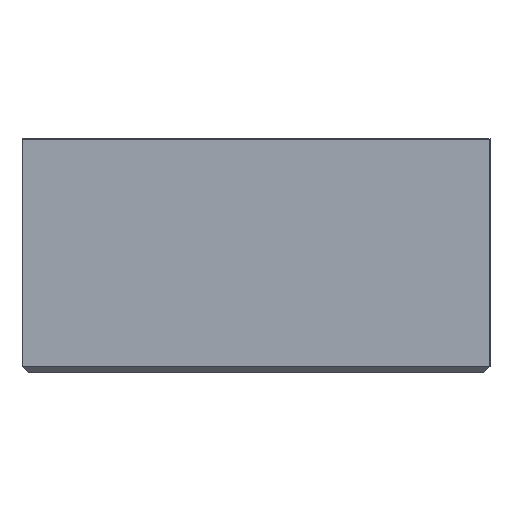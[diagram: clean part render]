
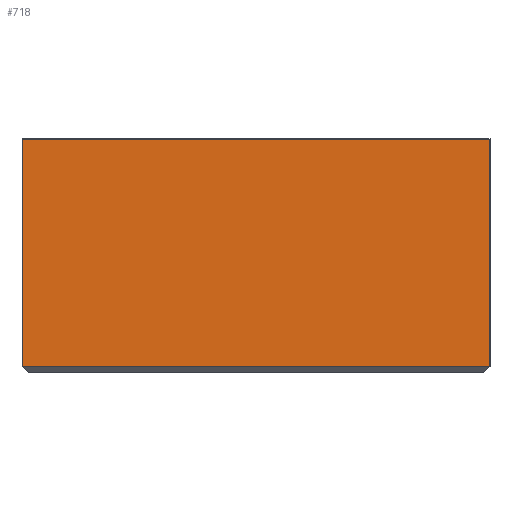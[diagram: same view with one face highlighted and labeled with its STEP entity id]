
A CAD part, left-side view. The second image highlights one B-rep face of the part: STEP entity #718.
In plain terms, the highlighted planar face has unit normal (-1, 0, 0).
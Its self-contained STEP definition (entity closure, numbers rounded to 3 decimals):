
#278=CARTESIAN_POINT('',(-4.765,-4.765,15.875));
#279=VERTEX_POINT('',#278);
#286=CARTESIAN_POINT('',(-4.765,-4.765,-2.675));
#287=VERTEX_POINT('',#286);
#288=CARTESIAN_POINT('',(-4.765,-4.765,-2.675));
#289=DIRECTION('',(0.0,0.0,1.0));
#290=VECTOR('',#289,18.55);
#291=LINE('',#288,#290);
#292=EDGE_CURVE('',#287,#279,#291,.T.);
#373=CARTESIAN_POINT('',(-4.765,33.335,15.875));
#374=VERTEX_POINT('',#373);
#381=CARTESIAN_POINT('',(-4.765,-4.765,15.875));
#382=DIRECTION('',(0.0,1.0,0.0));
#383=VECTOR('',#382,38.1);
#384=LINE('',#381,#383);
#385=EDGE_CURVE('',#279,#374,#384,.T.);
#564=CARTESIAN_POINT('',(-4.765,33.335,-2.675));
#565=VERTEX_POINT('',#564);
#566=CARTESIAN_POINT('',(-4.765,-4.765,-2.675));
#567=DIRECTION('',(0.0,1.0,0.0));
#568=VECTOR('',#567,38.1);
#569=LINE('',#566,#568);
#570=EDGE_CURVE('',#287,#565,#569,.T.);
#694=CARTESIAN_POINT('',(-4.765,33.335,-2.675));
#695=DIRECTION('',(0.0,0.0,1.0));
#696=VECTOR('',#695,18.55);
#697=LINE('',#694,#696);
#698=EDGE_CURVE('',#565,#374,#697,.T.);
#707=CARTESIAN_POINT('',(-4.765,-4.765,-3.175));
#708=DIRECTION('',(-1.0,0.0,0.0));
#709=DIRECTION('',(0.0,0.0,1.0));
#710=AXIS2_PLACEMENT_3D('',#707,#708,#709);
#711=PLANE('',#710);
#712=ORIENTED_EDGE('',*,*,#570,.F.);
#713=ORIENTED_EDGE('',*,*,#292,.T.);
#714=ORIENTED_EDGE('',*,*,#385,.T.);
#715=ORIENTED_EDGE('',*,*,#698,.F.);
#716=EDGE_LOOP('',(#712,#713,#714,#715));
#717=FACE_OUTER_BOUND('',#716,.T.);
#718=ADVANCED_FACE('',(#717),#711,.T.);
